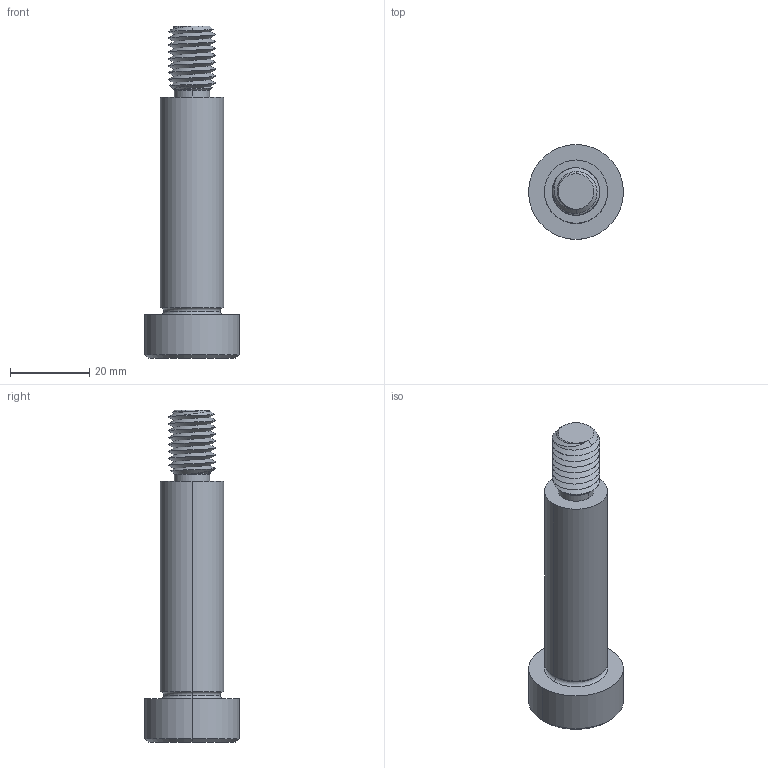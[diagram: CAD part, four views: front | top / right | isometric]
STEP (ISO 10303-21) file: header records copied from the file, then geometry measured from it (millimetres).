
FILE_DESCRIPTION (( 'STEP AP203' ), '1' );
FILE_NAME ('P0130.160-055-B2.step', '2021-11-09T22:16:12', ( '' ), ( '' ), 'SwSTEP 2.0', 'SolidWorks 2019', '' );
FILE_SCHEMA (( 'CONFIG_CONTROL_DESIGN' ));
Length unit declared in the file: millimetre
Products named in the file (1): P0130.160-055-B2
Bounding box: 24 x 24 x 84 mm (x, y, z)
Volume: 16963.3 mm3; surface area: 5807.7 mm2
Topology: 1 solids, 1 shells, 59 faces, 139 edges, 83 vertices
Faces by surface type: cylinder 22, plane 16, cone 15, torus 4, bspline 2
Entity records: 5164 total; most frequent: CARTESIAN_POINT 3839, ORIENTED_EDGE 274, DIRECTION 244, EDGE_CURVE 137, AXIS2_PLACEMENT_3D 98, VERTEX_POINT 83, EDGE_LOOP 62, ADVANCED_FACE 59
